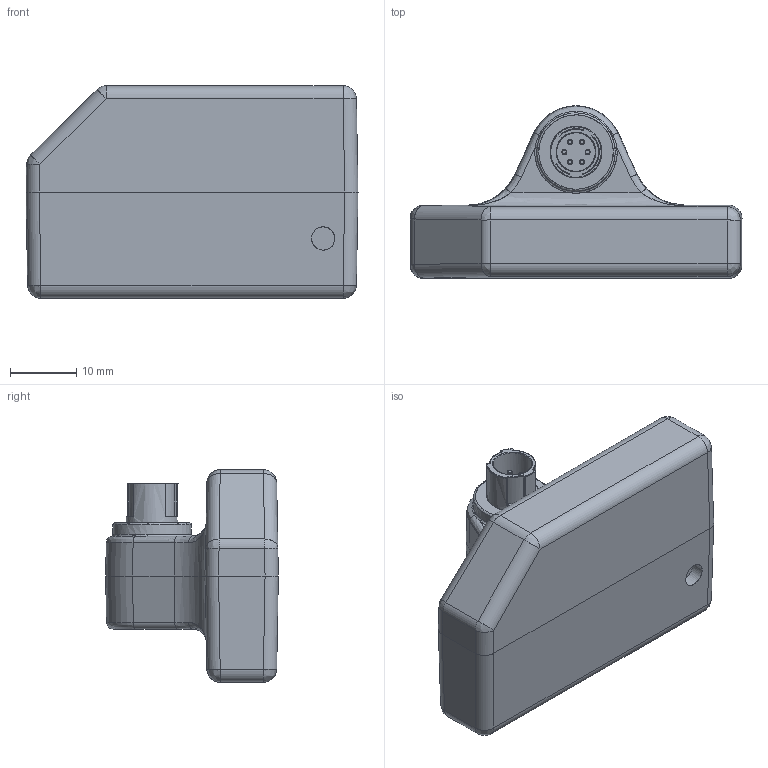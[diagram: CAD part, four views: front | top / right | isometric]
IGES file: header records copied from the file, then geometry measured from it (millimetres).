
Global section: file name: Y:\_LCPD Drawings\13.1 Lightweight Models\9936\LA-9936-0622 WIRELESS MODULE\LA-9936-0622 WIRELESS MODULE.igs; native system: NX V1926; preprocessor: SIEMENS PLM Software NX 1942; date: 20210318.133723; units: millimetre
Bounding box: 50 x 26 x 32 mm (x, y, z)
Surface area: 5390 mm2 (no closed solid volume)
Topology: 0 solids, 0 shells, 140 faces, 708 edges, 661 vertices
Faces by surface type: bspline 140
